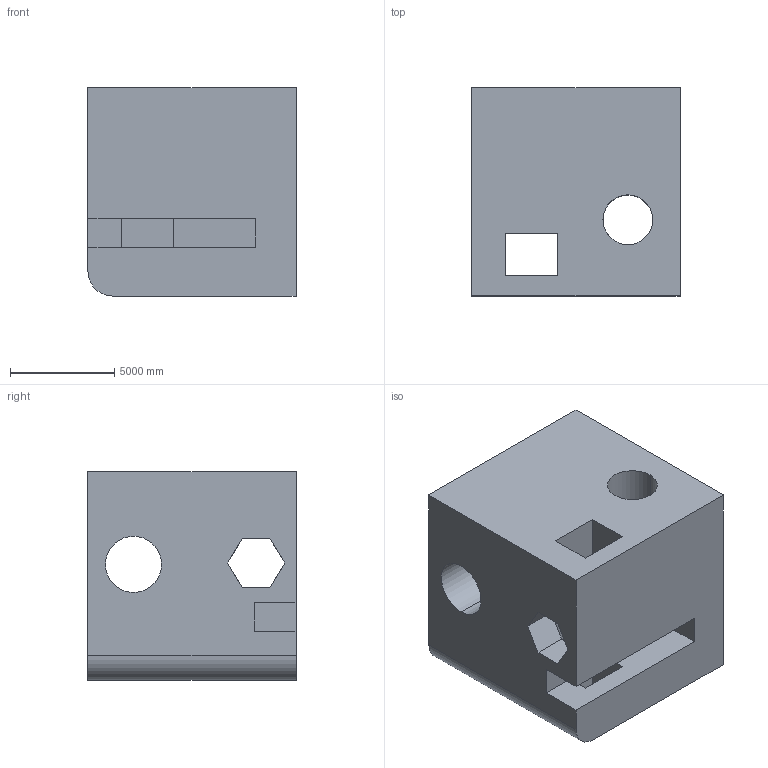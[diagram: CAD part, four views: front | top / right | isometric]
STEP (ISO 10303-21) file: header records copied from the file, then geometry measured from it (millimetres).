
FILE_DESCRIPTION (( 'STEP AP203' ), '1' );
FILE_NAME ('111.STEP', '2022-08-31T11:38:33', ( 'user' ), ( '' ), 'SwSTEP 2.0', 'SolidWorks 2021', '' );
FILE_SCHEMA (( 'CONFIG_CONTROL_DESIGN' ));
Length unit declared in the file: centimetre
Products named in the file (1): 111
Bounding box: 10000 x 10000 x 10000 mm (x, y, z)
Volume: 789420148044.3 mm3; surface area: 865114814.2 mm2
Topology: 1 solids, 1 shells, 35 faces, 114 edges, 76 vertices
Faces by surface type: plane 30, cylinder 5
Entity records: 1345 total; most frequent: CARTESIAN_POINT 238, ORIENTED_EDGE 228, DIRECTION 194, EDGE_CURVE 114, LINE 98, VECTOR 98, VERTEX_POINT 76, AXIS2_PLACEMENT_3D 48
